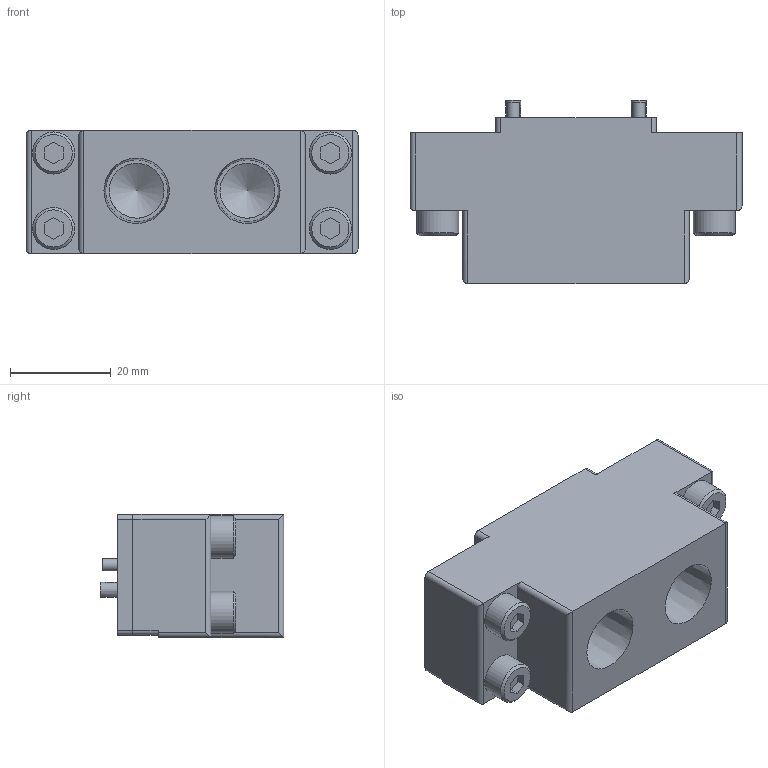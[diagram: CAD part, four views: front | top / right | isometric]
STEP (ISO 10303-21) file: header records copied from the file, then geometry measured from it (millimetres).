
FILE_DESCRIPTION(('STEP AP214'),'1');
FILE_NAME('KHB-7RS-EP82_ver1.stp','2026-04-27T01:11:21',(' '),(' '),'Spatial InterOp 3D',' ',' ');
FILE_SCHEMA(('AUTOMOTIVE_DESIGN { 1 0 10303 214 1 1 1 1 }'));
Length unit declared in the file: millimetre
Products named in the file (1): KHB-7RS-EP82_ver1
Bounding box: 66 x 36.5 x 24.5 mm (x, y, z)
Volume: 38191.5 mm3; surface area: 12966.4 mm2
Topology: 1 solids, 11 shells, 164 faces, 359 edges, 239 vertices
Faces by surface type: plane 100, cylinder 48, cone 16
Full cylindrical faces by diameter (mm): 2.5 x4, 3.5 x2, 4 x2, 4.2 x4, 5.41 x2, 5.5 x4, 6.5 x2, 8.385 x4, 9 x2, 10.9 x2
Entity records: 5560 total; most frequent: CARTESIAN_POINT 837, DIRECTION 726, ORIENTED_EDGE 578, EDGE_CURVE 289, AXIS2_PLACEMENT_3D 274, EDGE_LOOP 244, VERTEX_POINT 217, FACE_OUTER_BOUND 192
